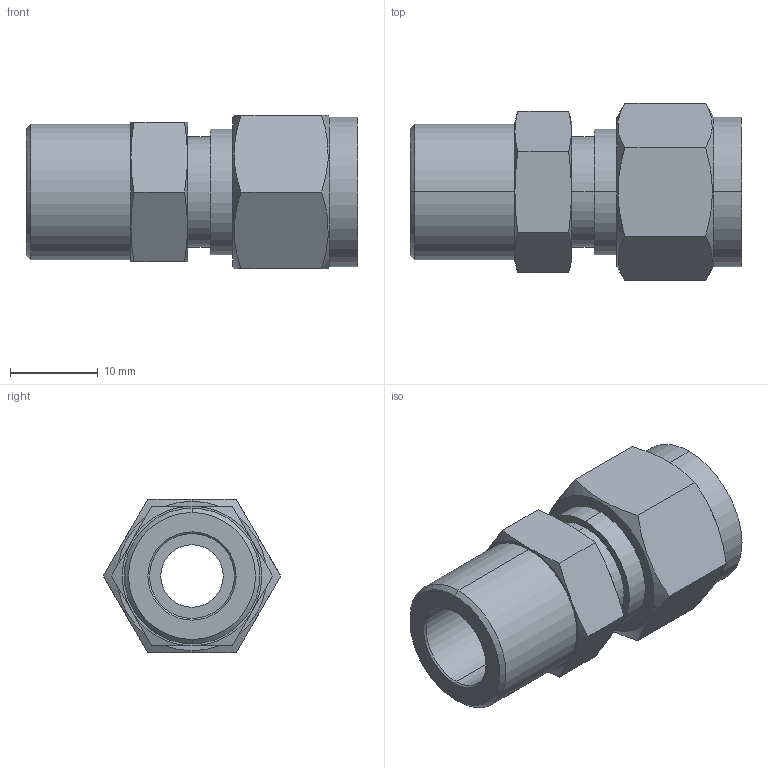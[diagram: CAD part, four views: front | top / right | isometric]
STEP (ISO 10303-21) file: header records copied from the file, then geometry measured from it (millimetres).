
FILE_DESCRIPTION (( 'STEP AP203' ), '1' );
FILE_NAME ('DCW06-06 SS.STEP', '2009-09-08T05:53:14', ( ' ' ), ( '' ), 'SwSTEP 2.0', 'SolidWorks 2008', '' );
FILE_SCHEMA (( 'CONFIG_CONTROL_DESIGN' ));
Length unit declared in the file: millimetre
Products named in the file (1): DCW06-06 SS
Bounding box: 37.7 x 20.16 x 17.46 mm (x, y, z)
Volume: 5612.2 mm3; surface area: 3604.2 mm2
Topology: 1 solids, 1 shells, 54 faces, 120 edges, 74 vertices
Faces by surface type: cone 20, plane 20, cylinder 14
Entity records: 1703 total; most frequent: CARTESIAN_POINT 465, ORIENTED_EDGE 240, DIRECTION 236, EDGE_CURVE 120, AXIS2_PLACEMENT_3D 101, VERTEX_POINT 74, EDGE_LOOP 62, FACE_OUTER_BOUND 54
